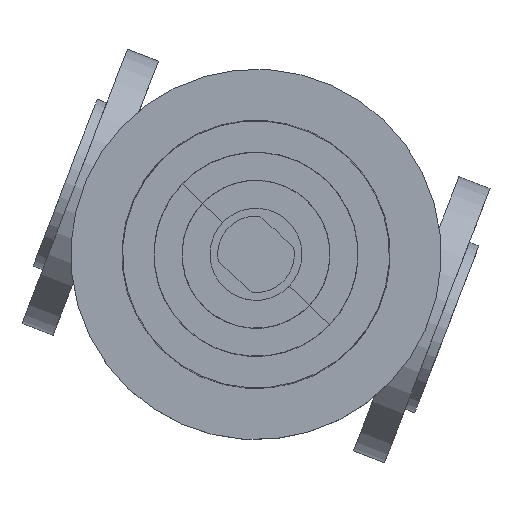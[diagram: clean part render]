
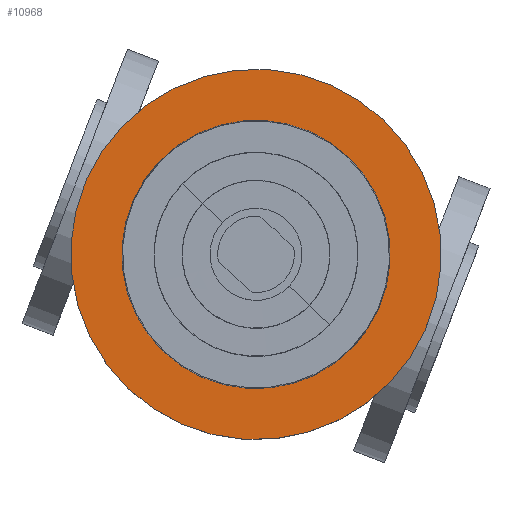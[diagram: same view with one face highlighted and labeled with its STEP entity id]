
A CAD part, top view. The second image highlights one B-rep face of the part: STEP entity #10968.
In plain terms, the highlighted planar face has unit normal (0, 0, 1).
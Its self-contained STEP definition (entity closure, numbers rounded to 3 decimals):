
#494 = FACE_BOUND ( 'NONE', #9424, .T. ) ;
#809 = EDGE_CURVE ( 'NONE', #11654, #14025, #16984, .T. ) ;
#819 = EDGE_LOOP ( 'NONE', ( #14497, #3624 ) ) ;
#948 = DIRECTION ( 'NONE',  ( 0., 0., -1. ) ) ;
#1048 = ORIENTED_EDGE ( 'NONE', *, *, #809, .T. ) ;
#1291 = VERTEX_POINT ( 'NONE', #1298 ) ;
#1298 = CARTESIAN_POINT ( 'NONE',  ( -50.879, 54.941, 6.099 ) ) ;
#1718 = CIRCLE ( 'NONE', #5352, 72.5 ) ;
#2231 = AXIS2_PLACEMENT_3D ( 'NONE', #10039, #10131, #15099 ) ;
#3048 = DIRECTION ( 'NONE',  ( 0., -1., 0. ) ) ;
#3402 = DIRECTION ( 'NONE',  ( 0., 0., -1. ) ) ;
#3519 = VERTEX_POINT ( 'NONE', #8863 ) ;
#3624 = ORIENTED_EDGE ( 'NONE', *, *, #10120, .F. ) ;
#5352 = AXIS2_PLACEMENT_3D ( 'NONE', #13265, #7858, #14233 ) ;
#5522 = CARTESIAN_POINT ( 'NONE',  ( -36.442, 41.125, 6.099 ) ) ;
#5659 = CIRCLE ( 'NONE', #17072, 72.5 ) ;
#5874 = CARTESIAN_POINT ( 'NONE',  ( 39.446, -31.492, 6.099 ) ) ;
#7442 = DIRECTION ( 'NONE',  ( -0.574, 0.819, 0. ) ) ;
#7830 = CIRCLE ( 'NONE', #12592, 52.517 ) ;
#7858 = DIRECTION ( 'NONE',  ( 0., 0., -1. ) ) ;
#8658 = CARTESIAN_POINT ( 'NONE',  ( 1.502, 4.816, 6.099 ) ) ;
#8863 = CARTESIAN_POINT ( 'NONE',  ( 53.884, -45.308, 6.099 ) ) ;
#9424 = EDGE_LOOP ( 'NONE', ( #1048, #15919 ) ) ;
#10003 = CARTESIAN_POINT ( 'NONE',  ( 1.502, 4.816, 6.099 ) ) ;
#10039 = CARTESIAN_POINT ( 'NONE',  ( 1.502, 4.816, 6.099 ) ) ;
#10120 = EDGE_CURVE ( 'NONE', #3519, #1291, #5659, .T. ) ;
#10131 = DIRECTION ( 'NONE',  ( 0., 0., -1. ) ) ;
#10391 = AXIS2_PLACEMENT_3D ( 'NONE', #10003, #3402, #3048 ) ;
#10968 = ADVANCED_FACE ( 'NONE', ( #494, #14978 ), #13943, .F. ) ;
#11654 = VERTEX_POINT ( 'NONE', #5874 ) ;
#11678 = DIRECTION ( 'NONE',  ( -0.574, 0.819, 0. ) ) ;
#12592 = AXIS2_PLACEMENT_3D ( 'NONE', #8658, #13991, #7442 ) ;
#12824 = CARTESIAN_POINT ( 'NONE',  ( 1.502, 4.816, 6.099 ) ) ;
#13265 = CARTESIAN_POINT ( 'NONE',  ( 1.502, 4.816, 6.099 ) ) ;
#13943 = PLANE ( 'NONE',  #10391 ) ;
#13991 = DIRECTION ( 'NONE',  ( 0., 0., -1. ) ) ;
#14025 = VERTEX_POINT ( 'NONE', #5522 ) ;
#14233 = DIRECTION ( 'NONE',  ( -0.574, 0.819, 0. ) ) ;
#14497 = ORIENTED_EDGE ( 'NONE', *, *, #15072, .F. ) ;
#14892 = EDGE_CURVE ( 'NONE', #14025, #11654, #7830, .T. ) ;
#14978 = FACE_OUTER_BOUND ( 'NONE', #819, .T. ) ;
#15072 = EDGE_CURVE ( 'NONE', #1291, #3519, #1718, .T. ) ;
#15099 = DIRECTION ( 'NONE',  ( -0.574, 0.819, 0. ) ) ;
#15919 = ORIENTED_EDGE ( 'NONE', *, *, #14892, .T. ) ;
#16984 = CIRCLE ( 'NONE', #2231, 52.517 ) ;
#17072 = AXIS2_PLACEMENT_3D ( 'NONE', #12824, #948, #11678 ) ;
